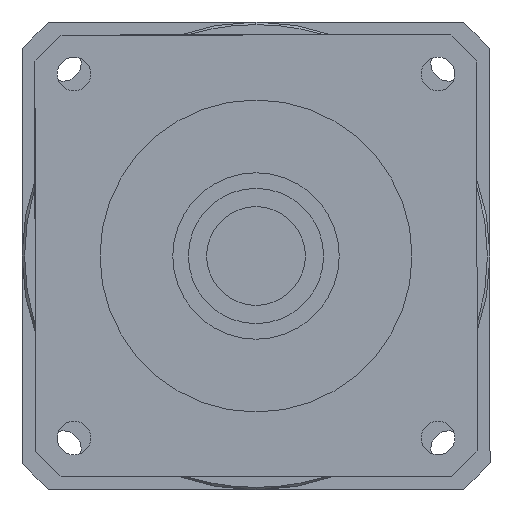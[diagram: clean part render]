
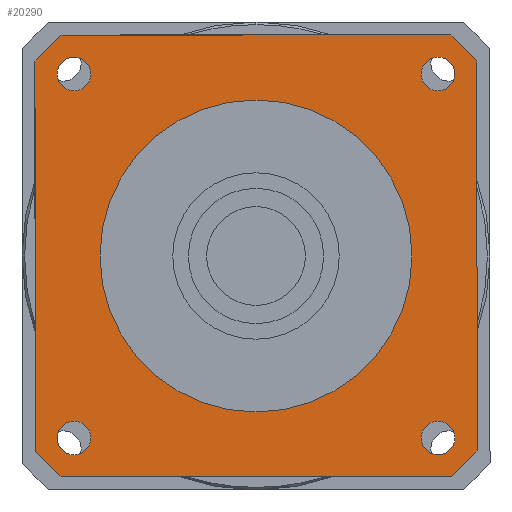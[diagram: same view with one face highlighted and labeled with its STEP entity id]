
A CAD part, left-side view. The second image highlights one B-rep face of the part: STEP entity #20290.
In plain terms, the highlighted planar face has unit normal (-1, 0, 0) as drawn and (0, 0, -1) by its records, which use the part's own axes.
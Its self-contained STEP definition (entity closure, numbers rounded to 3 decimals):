
#15940=CARTESIAN_POINT('',(0.,-80.,-117.));
#15950=DIRECTION('',(-0.707,-0.707,
0.));
#15960=VECTOR('',#15950,1.);
#15970=LINE('',#15940,#15960);
#15980=CARTESIAN_POINT('',(42.5,-37.5,-117.));
#15990=VERTEX_POINT('',#15980);
#16000=CARTESIAN_POINT('',(37.5,-42.5,-117.));
#16010=VERTEX_POINT('',#16000);
#16020=EDGE_CURVE('',#15990,#16010,#15970,.T.);
#16340=CARTESIAN_POINT('',(0.,80.,-117.));
#16350=DIRECTION('',(0.707,0.707,
0.));
#16360=VECTOR('',#16350,1.);
#16370=LINE('',#16340,#16360);
#16380=CARTESIAN_POINT('',(-42.5,37.5,-117.));
#16390=VERTEX_POINT('',#16380);
#16400=CARTESIAN_POINT('',(-37.5,42.5,-117.));
#16410=VERTEX_POINT('',#16400);
#16420=EDGE_CURVE('',#16390,#16410,#16370,.T.);
#17700=CARTESIAN_POINT('',(0.,42.5,-117.))
;
#17710=DIRECTION('',(-1.,0.,0.));
#17720=VECTOR('',#17710,1.);
#17730=LINE('',#17700,#17720);
#17740=CARTESIAN_POINT('',(37.5,42.5,-117.));
#17750=VERTEX_POINT('',#17740);
#17760=EDGE_CURVE('',#17750,#16410,#17730,.T.);
#18130=CARTESIAN_POINT('',(80.,0.,-117.));
#18140=DIRECTION('',(0.707,-0.707,
0.));
#18150=VECTOR('',#18140,1.);
#18160=LINE('',#18130,#18150);
#18170=CARTESIAN_POINT('',(42.5,37.5,-117.));
#18180=VERTEX_POINT('',#18170);
#18190=EDGE_CURVE('',#17750,#18180,#18160,.T.);
#18800=CARTESIAN_POINT('',(35.002,-31.752,-117.));
#18810=VERTEX_POINT('',#18800);
#18900=CARTESIAN_POINT('',(35.002,-38.252,-117.));
#18910=VERTEX_POINT('',#18900);
#18940=CARTESIAN_POINT('',(35.002,-35.002,-117.));
#18950=DIRECTION('',(0.,0.,-1.));
#18960=DIRECTION('',(1.,0.,0.));
#18970=AXIS2_PLACEMENT_3D('',#18940,#18950,#18960);
#18980=CIRCLE('',#18970,3.25);
#18990=CARTESIAN_POINT('',(38.252,-35.002,-117.));
#19000=VERTEX_POINT('',#18990);
#19010=EDGE_CURVE('',#19000,#18910,#18980,.T.);
#19030=EDGE_CURVE('',#18810,#19000,#18980,.T.);
#19080=CARTESIAN_POINT('',(-40.,40.,-117.));
#19090=DIRECTION('',(0.,0.,1.));
#19100=DIRECTION('',(-1.,0.,0.));
#19110=AXIS2_PLACEMENT_3D('',#19080,#19090,#19100);
#19120=PLANE('',#19110);
#19130=ORIENTED_EDGE('',*,*,#19010,.F.);
#19140=EDGE_CURVE('',#18910,#18810,#18980,.T.);
#19150=ORIENTED_EDGE('',*,*,#19140,.F.);
#19160=ORIENTED_EDGE('',*,*,#19030,.F.);
#19170=EDGE_LOOP('',(#19160,#19150,#19130));
#19180=FACE_BOUND('',#19170,.T.);
#19190=CARTESIAN_POINT('',(35.002,35.002,-117.));
#19200=DIRECTION('',(0.,0.,-1.));
#19210=DIRECTION('',(0.,1.,0.));
#19220=AXIS2_PLACEMENT_3D('',#19190,#19200,#19210);
#19230=CIRCLE('',#19220,3.25);
#19240=CARTESIAN_POINT('',(35.002,38.252,-117.));
#19250=VERTEX_POINT('',#19240);
#19260=CARTESIAN_POINT('',(38.252,35.002,-117.));
#19270=VERTEX_POINT('',#19260);
#19280=EDGE_CURVE('',#19250,#19270,#19230,.T.);
#19290=ORIENTED_EDGE('',*,*,#19280,.F.);
#19300=CARTESIAN_POINT('',(31.752,35.002,-117.));
#19310=VERTEX_POINT('',#19300);
#19320=EDGE_CURVE('',#19270,#19310,#19230,.T.);
#19330=ORIENTED_EDGE('',*,*,#19320,.F.);
#19340=EDGE_CURVE('',#19310,#19250,#19230,.T.);
#19350=ORIENTED_EDGE('',*,*,#19340,.F.);
#19360=EDGE_LOOP('',(#19350,#19330,#19290));
#19370=FACE_BOUND('',#19360,.T.);
#19380=CARTESIAN_POINT('',(-35.002,35.002,-117.));
#19390=DIRECTION('',(0.,0.,-1.));
#19400=DIRECTION('',(-1.,0.,0.));
#19410=AXIS2_PLACEMENT_3D('',#19380,#19390,#19400);
#19420=CIRCLE('',#19410,3.25);
#19430=CARTESIAN_POINT('',(-38.252,35.002,-117.));
#19440=VERTEX_POINT('',#19430);
#19450=CARTESIAN_POINT('',(-35.002,38.252,-117.));
#19460=VERTEX_POINT('',#19450);
#19470=EDGE_CURVE('',#19440,#19460,#19420,.T.);
#19480=ORIENTED_EDGE('',*,*,#19470,.F.);
#19490=CARTESIAN_POINT('',(-35.002,31.752,-117.));
#19500=VERTEX_POINT('',#19490);
#19510=EDGE_CURVE('',#19460,#19500,#19420,.T.);
#19520=ORIENTED_EDGE('',*,*,#19510,.F.);
#19530=EDGE_CURVE('',#19500,#19440,#19420,.T.);
#19540=ORIENTED_EDGE('',*,*,#19530,.F.);
#19550=EDGE_LOOP('',(#19540,#19520,#19480));
#19560=FACE_BOUND('',#19550,.T.);
#19570=CARTESIAN_POINT('',(-35.002,-35.002,-117.));
#19580=DIRECTION('',(0.,0.,-1.));
#19590=DIRECTION('',(0.,-1.,0.));
#19600=AXIS2_PLACEMENT_3D('',#19570,#19580,#19590);
#19610=CIRCLE('',#19600,3.25);
#19620=CARTESIAN_POINT('',(-35.002,-38.252,-117.));
#19630=VERTEX_POINT('',#19620);
#19640=CARTESIAN_POINT('',(-38.252,-35.002,-117.));
#19650=VERTEX_POINT('',#19640);
#19660=EDGE_CURVE('',#19630,#19650,#19610,.T.);
#19670=ORIENTED_EDGE('',*,*,#19660,.F.);
#19680=CARTESIAN_POINT('',(-31.752,-35.002,-117.));
#19690=VERTEX_POINT('',#19680);
#19700=EDGE_CURVE('',#19650,#19690,#19610,.T.);
#19710=ORIENTED_EDGE('',*,*,#19700,.F.);
#19720=EDGE_CURVE('',#19690,#19630,#19610,.T.);
#19730=ORIENTED_EDGE('',*,*,#19720,.F.);
#19740=EDGE_LOOP('',(#19730,#19710,#19670));
#19750=FACE_BOUND('',#19740,.T.);
#19760=CARTESIAN_POINT('',(0.,0.,
-117.));
#19770=DIRECTION('',(0.,0.,1.));
#19780=DIRECTION('',(0.,-1.,0.));
#19790=AXIS2_PLACEMENT_3D('',#19760,#19770,#19780);
#19800=CIRCLE('',#19790,30.);
#19810=CARTESIAN_POINT('',(30.,0.,-117.));
#19820=VERTEX_POINT('',#19810);
#19830=CARTESIAN_POINT('',(-30.,0.,-117.));
#19840=VERTEX_POINT('',#19830);
#19850=EDGE_CURVE('',#19820,#19840,#19800,.T.);
#19860=ORIENTED_EDGE('',*,*,#19850,.T.);
#19870=CARTESIAN_POINT('',(0.,-30.,-117.));
#19880=VERTEX_POINT('',#19870);
#19890=EDGE_CURVE('',#19880,#19820,#19800,.T.);
#19900=ORIENTED_EDGE('',*,*,#19890,.T.);
#19910=EDGE_CURVE('',#19840,#19880,#19800,.T.);
#19920=ORIENTED_EDGE('',*,*,#19910,.T.);
#19930=EDGE_LOOP('',(#19920,#19900,#19860));
#19940=FACE_BOUND('',#19930,.T.);
#19950=ORIENTED_EDGE('',*,*,#16420,.T.);
#19960=CARTESIAN_POINT('',(-42.5,0.,-117.)
);
#19970=DIRECTION('',(0.,-1.,0.));
#19980=VECTOR('',#19970,1.);
#19990=LINE('',#19960,#19980);
#20000=CARTESIAN_POINT('',(-42.5,-37.5,-117.));
#20010=VERTEX_POINT('',#20000);
#20020=EDGE_CURVE('',#16390,#20010,#19990,.T.);
#20030=ORIENTED_EDGE('',*,*,#20020,.F.);
#20040=CARTESIAN_POINT('',(-80.,0.,-117.));
#20050=DIRECTION('',(-0.707,0.707,
0.));
#20060=VECTOR('',#20050,1.);
#20070=LINE('',#20040,#20060);
#20080=CARTESIAN_POINT('',(-37.5,-42.5,-117.));
#20090=VERTEX_POINT('',#20080);
#20100=EDGE_CURVE('',#20090,#20010,#20070,.T.);
#20110=ORIENTED_EDGE('',*,*,#20100,.T.);
#20120=CARTESIAN_POINT('',(0.,-42.5,-117.)
);
#20130=DIRECTION('',(1.,0.,0.));
#20140=VECTOR('',#20130,1.);
#20150=LINE('',#20120,#20140);
#20160=EDGE_CURVE('',#20090,#16010,#20150,.T.);
#20170=ORIENTED_EDGE('',*,*,#20160,.F.);
#20180=ORIENTED_EDGE('',*,*,#16020,.T.);
#20190=CARTESIAN_POINT('',(42.5,0.,-117.))
;
#20200=DIRECTION('',(0.,1.,0.));
#20210=VECTOR('',#20200,1.);
#20220=LINE('',#20190,#20210);
#20230=EDGE_CURVE('',#15990,#18180,#20220,.T.);
#20240=ORIENTED_EDGE('',*,*,#20230,.F.);
#20250=ORIENTED_EDGE('',*,*,#18190,.T.);
#20260=ORIENTED_EDGE('',*,*,#17760,.F.);
#20270=EDGE_LOOP('',(#20260,#20250,#20240,#20180,#20170,#20110,#20030,
#19950));
#20280=FACE_OUTER_BOUND('',#20270,.T.);
#20290=ADVANCED_FACE('',(#19180,#19370,#19560,#19750,#19940,#20280),
#19120,.F.);
